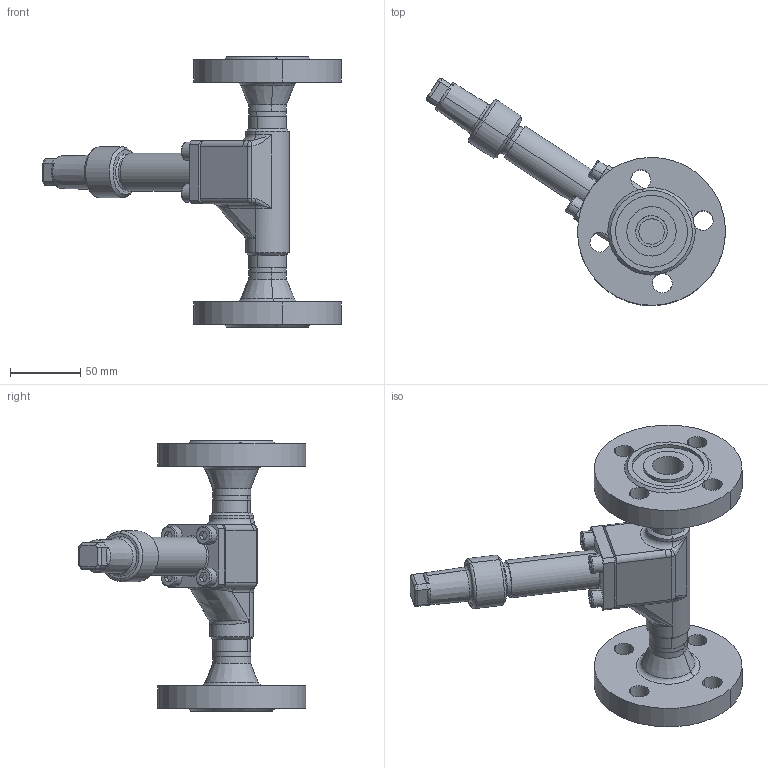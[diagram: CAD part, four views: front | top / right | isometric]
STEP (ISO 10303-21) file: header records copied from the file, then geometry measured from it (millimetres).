
FILE_DESCRIPTION (( 'STEP AP214' ), '1' );
FILE_NAME ('HRAR92330-DN020_DIN-FL-N_PS40.STEP', '2006-05-02T07:27:20', ( 'Herr Grams' ), ( 'AWP GmbH' ), 'SwSTEP 2.0', 'SolidWorks 2002296', '' );
FILE_SCHEMA (( 'AUTOMOTIVE_DESIGN' ));
Length unit declared in the file: millimetre
Products named in the file (10): HRAR92330-DN020_DIN-FL-N_PS40; Geh-kpl96320E11-DN20_PS40_DIN-FL_Standard; Gehäuse96300E11-DN20_PS40_R1_Standard; Flansch-DIN2635-Nut_PS40_DIN-Flansch-DN020_PS40-Nut; bead963-DN020-2_Standard; bead963-DN020-1_Standard; AVR96310E11_Deck+Schr-DN20_Standard; Deckel96310E11-DN20_PS40_Standard; Zylinderschraube-DIN912_M 8x 20; Kappe96300E10_DN6-20_Standard
Assembly tree (13 placements, depth 3):
  HRAR92330-DN020_DIN-FL-N_PS40
    Geh-kpl96320E11-DN20_PS40_DIN-FL_Standard
      Flansch-DIN2635-Nut_PS40_DIN-Flansch-DN020_PS40-Nut  x2
      bead963-DN020-1_Standard
      Gehäuse96300E11-DN20_PS40_R1_Standard
      bead963-DN020-2_Standard
    AVR96310E11_Deck+Schr-DN20_Standard
      Zylinderschraube-DIN912_M 8x 20  x4
      Deckel96310E11-DN20_PS40_Standard
    Kappe96300E10_DN6-20_Standard
Bounding box: 212.1 x 161.26 x 192 mm (x, y, z)
Volume: 468054.1 mm3; surface area: 115144.9 mm2
Topology: 11 solids, 11 shells, 334 faces, 768 edges, 467 vertices
Faces by surface type: cylinder 131, plane 98, cone 46, torus 32, bspline 21, sphere 6
Entity records: 20724 total; most frequent: CARTESIAN_POINT 14396, DIRECTION 1205, ORIENTED_EDGE 1132, EDGE_CURVE 566, AXIS2_PLACEMENT_3D 505, VERTEX_POINT 343, EDGE_LOOP 285, CIRCLE 260
